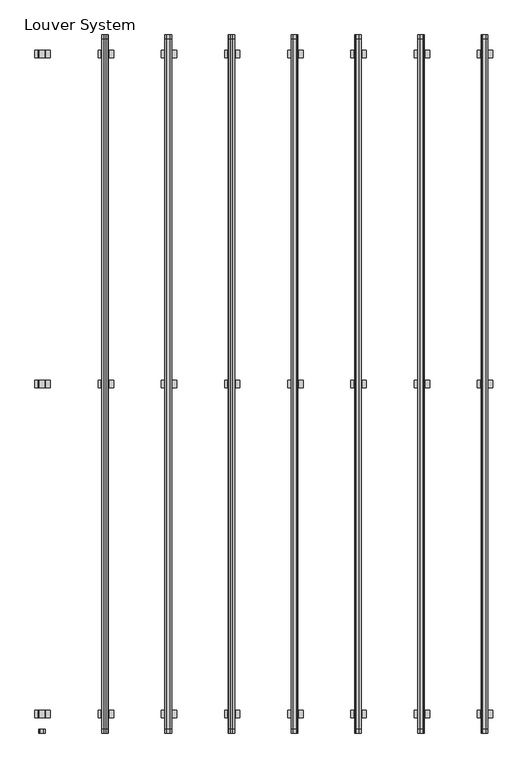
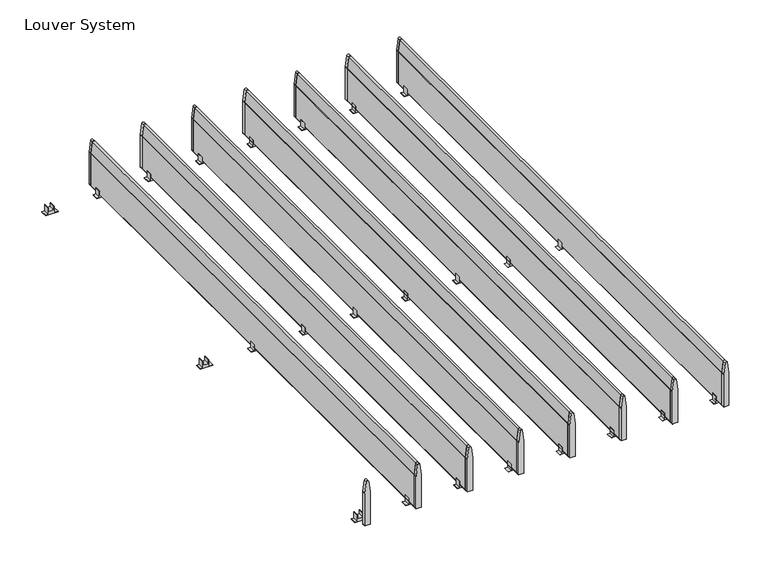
"""IFC4 building model written with IfcOpenShell, lengths in millimetres: geographic element geometry, Site_Danpal_AURA-Louvers : Louver System."""

from ifc_helpers import new_model, si_unit, point, frame, frame_2d, origin, place, context, project, spatial, polyline, circle_curve, trimmed, segment, composite_curve, outline, extrude, source, transform, mapped, element, save


def louver_system_e50a767e(model_context):
    return source(origin(), model_context, "Body", "SweptSolid", [
        extrude(outline(polyline([(70.2801886, 1496.0651013), (70.2801886, 1478.3440408), (67.6474895, 1478.3440408), (67.6474895, 1560.0224076), (70.1690862, 1560.0224076), (70.1690862, 1534.3177853), (74.0275948, 1534.3177853), (113.6946905, 1534.3177853), (114.4461851, 1532.5237184), (87.857937, 1532.5237184), (87.857937, 1497.4762816), (113.8713724, 1497.4762816), (112.7974197, 1496.0651013), (70.2801886, 1496.0651013)])), frame((0.0, -1045.0, 0.0), z_axis=(0.0, 1.0, 0.0), x_axis=(0.0, 0.0, 1.0)), (0.0, 0.0, 1.0), 40.0),
        extrude(outline(polyline([(70.2801886, 1496.0651013), (70.2801886, 1478.3440408), (67.6474895, 1478.3440408), (67.6474895, 1560.0224076), (70.1690862, 1560.0224076), (70.1690862, 1534.3177853), (74.0275948, 1534.3177853), (113.6946905, 1534.3177853), (114.4461851, 1532.5237184), (87.857937, 1532.5237184), (87.857937, 1497.4762816), (113.8713724, 1497.4762816), (112.7974197, 1496.0651013), (70.2801886, 1496.0651013)])), frame((0.0, 705.0, 0.0), z_axis=(0.0, 1.0, 0.0), x_axis=(0.0, 0.0, 1.0)), (0.0, 0.0, 1.0), 40.0),
        extrude(outline(polyline([(70.2801886, 1496.0651013), (70.2801886, 1478.3440408), (67.6474895, 1478.3440408), (67.6474895, 1560.0224076), (70.1690862, 1560.0224076), (70.1690862, 1534.3177853), (74.0275948, 1534.3177853), (113.6946905, 1534.3177853), (114.4461851, 1532.5237184), (87.857937, 1532.5237184), (87.857937, 1497.4762816), (113.8713724, 1497.4762816), (112.7974197, 1496.0651013), (70.2801886, 1496.0651013)])), frame((0.0, 2455.0, 0.0), z_axis=(0.0, 1.0, 0.0), x_axis=(0.0, 0.0, 1.0)), (0.0, 0.0, 1.0), 40.0),
        extrude(outline(composite_curve([segment(trimmed(circle_curve(frame_2d((309.4816555, 1499.9)), 32.6237184), [point((309.4816555, 1532.5237184))], [point((313.7306269, 1532.2458381))], False, "CARTESIAN"), True, "CONTINUOUS"), segment(polyline([(313.7306269, 1532.2458381), (387.4745822, 1522.5587816)]), True, "CONTINUOUS"), segment(trimmed(circle_curve(frame_2d((386.4816555, 1515.0)), 7.6237184), [point((387.4745822, 1522.5587816))], [point((387.4745822, 1507.4412184))], False, "CARTESIAN"), True, "CONTINUOUS"), segment(polyline([(387.4745822, 1507.4412184), (313.7306269, 1497.7541619)]), True, "CONTINUOUS"), segment(trimmed(circle_curve(frame_2d((309.4816555, 1530.1)), 32.6237184), [point((313.7306269, 1497.7541619))], [point((309.4816555, 1497.4762816))], False, "CARTESIAN"), True, "CONTINUOUS"), segment(polyline([(309.4816555, 1497.4762816), (90.2816555, 1497.4762816)]), True, "CONTINUOUS"), segment(trimmed(circle_curve(frame_2d((90.2816555, 1499.9)), 2.4237184), [point((90.2816555, 1497.4762816))], [point((87.857937, 1499.9))], False, "CARTESIAN"), True, "CONTINUOUS"), segment(polyline([(87.857937, 1499.9), (87.857937, 1530.1)]), True, "CONTINUOUS"), segment(trimmed(circle_curve(frame_2d((90.2816555, 1530.1)), 2.4237184), [point((87.857937, 1530.1))], [point((90.2816555, 1532.5237184))], False, "CARTESIAN"), True, "CONTINUOUS"), segment(polyline([(90.2816555, 1532.5237184), (309.4816555, 1532.5237184)]), True, "CONTINUOUS")], self_intersect=False)), frame((0.0, -1125.0, 0.0), z_axis=(0.0, 1.0, 0.0), x_axis=(0.0, 0.0, 1.0)), (0.0, 0.0, 1.0), 20.0718852),
        extrude(outline(composite_curve([segment(trimmed(circle_curve(frame_2d((309.4816555, 1499.9)), 32.6237184), [point((309.4816555, 1532.5237184))], [point((313.7306269, 1532.2458381))], False, "CARTESIAN"), True, "CONTINUOUS"), segment(polyline([(313.7306269, 1532.2458381), (387.4745822, 1522.5587816)]), True, "CONTINUOUS"), segment(trimmed(circle_curve(frame_2d((386.4816555, 1515.0)), 7.6237184), [point((387.4745822, 1522.5587816))], [point((387.4745822, 1507.4412184))], False, "CARTESIAN"), True, "CONTINUOUS"), segment(polyline([(387.4745822, 1507.4412184), (313.7306269, 1497.7541619)]), True, "CONTINUOUS"), segment(trimmed(circle_curve(frame_2d((309.4816555, 1530.1)), 32.6237184), [point((313.7306269, 1497.7541619))], [point((309.4816555, 1497.4762816))], False, "CARTESIAN"), True, "CONTINUOUS"), segment(polyline([(309.4816555, 1497.4762816), (90.2816555, 1497.4762816)]), True, "CONTINUOUS"), segment(trimmed(circle_curve(frame_2d((90.2816555, 1499.9)), 2.4237184), [point((90.2816555, 1497.4762816))], [point((87.857937, 1499.9))], False, "CARTESIAN"), True, "CONTINUOUS"), segment(polyline([(87.857937, 1499.9), (87.857937, 1530.1)]), True, "CONTINUOUS"), segment(trimmed(circle_curve(frame_2d((90.2816555, 1530.1)), 2.4237184), [point((87.857937, 1530.1))], [point((90.2816555, 1532.5237184))], False, "CARTESIAN"), True, "CONTINUOUS"), segment(polyline([(90.2816555, 1532.5237184), (309.4816555, 1532.5237184)]), True, "CONTINUOUS")], self_intersect=False)), frame((0.0, 2555.0, 0.0), z_axis=(0.0, 1.0, 0.0), x_axis=(0.0, 0.0, 1.0)), (0.0, 0.0, 1.0), 20.0),
        extrude(outline(composite_curve([segment(trimmed(circle_curve(frame_2d((309.4816555, 1499.9)), 32.6237184), [point((309.4816555, 1532.5237184))], [point((313.7306269, 1532.2458381))], False, "CARTESIAN"), True, "CONTINUOUS"), segment(polyline([(313.7306269, 1532.2458381), (387.4745822, 1522.5587816)]), True, "CONTINUOUS"), segment(trimmed(circle_curve(frame_2d((386.4816555, 1515.0)), 7.6237184), [point((387.4745822, 1522.5587816))], [point((387.4745822, 1507.4412184))], False, "CARTESIAN"), True, "CONTINUOUS"), segment(polyline([(387.4745822, 1507.4412184), (313.7306269, 1497.7541619)]), True, "CONTINUOUS"), segment(trimmed(circle_curve(frame_2d((309.4816555, 1530.1)), 32.6237184), [point((313.7306269, 1497.7541619))], [point((309.4816555, 1497.4762816))], False, "CARTESIAN"), True, "CONTINUOUS"), segment(polyline([(309.4816555, 1497.4762816), (90.2816555, 1497.4762816)]), True, "CONTINUOUS"), segment(trimmed(circle_curve(frame_2d((90.2816555, 1499.9)), 2.4237184), [point((90.2816555, 1497.4762816))], [point((87.857937, 1499.9))], False, "CARTESIAN"), True, "CONTINUOUS"), segment(polyline([(87.857937, 1499.9), (87.857937, 1530.1)]), True, "CONTINUOUS"), segment(trimmed(circle_curve(frame_2d((90.2816555, 1530.1)), 2.4237184), [point((87.857937, 1530.1))], [point((90.2816555, 1532.5237184))], False, "CARTESIAN"), True, "CONTINUOUS"), segment(polyline([(90.2816555, 1532.5237184), (309.4816555, 1532.5237184)]), True, "CONTINUOUS")], self_intersect=False)), frame((0.0, -1104.9281148, 0.0), z_axis=(0.0, 1.0, 0.0), x_axis=(0.0, 0.0, 1.0)), (0.0, 0.0, 1.0), 3659.9281148),
        extrude(outline(polyline([(70.2801886, 1161.0651013), (70.2801886, 1143.3440408), (67.6474895, 1143.3440408), (67.6474895, 1225.0224076), (70.1690862, 1225.0224076), (70.1690862, 1199.3177853), (74.0275948, 1199.3177853), (113.6946905, 1199.3177853), (114.4461851, 1197.5237184), (87.857937, 1197.5237184), (87.857937, 1162.4762816), (113.8713724, 1162.4762816), (112.7974197, 1161.0651013), (70.2801886, 1161.0651013)])), frame((0.0, -1045.0, 0.0), z_axis=(0.0, 1.0, 0.0), x_axis=(0.0, 0.0, 1.0)), (0.0, 0.0, 1.0), 40.0),
        extrude(outline(polyline([(70.2801886, 1161.0651013), (70.2801886, 1143.3440408), (67.6474895, 1143.3440408), (67.6474895, 1225.0224076), (70.1690862, 1225.0224076), (70.1690862, 1199.3177853), (74.0275948, 1199.3177853), (113.6946905, 1199.3177853), (114.4461851, 1197.5237184), (87.857937, 1197.5237184), (87.857937, 1162.4762816), (113.8713724, 1162.4762816), (112.7974197, 1161.0651013), (70.2801886, 1161.0651013)])), frame((0.0, 705.0, 0.0), z_axis=(0.0, 1.0, 0.0), x_axis=(0.0, 0.0, 1.0)), (0.0, 0.0, 1.0), 40.0),
        extrude(outline(polyline([(70.2801886, 1161.0651013), (70.2801886, 1143.3440408), (67.6474895, 1143.3440408), (67.6474895, 1225.0224076), (70.1690862, 1225.0224076), (70.1690862, 1199.3177853), (74.0275948, 1199.3177853), (113.6946905, 1199.3177853), (114.4461851, 1197.5237184), (87.857937, 1197.5237184), (87.857937, 1162.4762816), (113.8713724, 1162.4762816), (112.7974197, 1161.0651013), (70.2801886, 1161.0651013)])), frame((0.0, 2455.0, 0.0), z_axis=(0.0, 1.0, 0.0), x_axis=(0.0, 0.0, 1.0)), (0.0, 0.0, 1.0), 40.0),
        extrude(outline(composite_curve([segment(trimmed(circle_curve(frame_2d((309.4816555, 1164.9)), 32.6237184), [point((309.4816555, 1197.5237184))], [point((313.7306269, 1197.2458381))], False, "CARTESIAN"), True, "CONTINUOUS"), segment(polyline([(313.7306269, 1197.2458381), (387.4745822, 1187.5587816)]), True, "CONTINUOUS"), segment(trimmed(circle_curve(frame_2d((386.4816555, 1180.0)), 7.6237184), [point((387.4745822, 1187.5587816))], [point((387.4745822, 1172.4412184))], False, "CARTESIAN"), True, "CONTINUOUS"), segment(polyline([(387.4745822, 1172.4412184), (313.7306269, 1162.7541619)]), True, "CONTINUOUS"), segment(trimmed(circle_curve(frame_2d((309.4816555, 1195.1)), 32.6237184), [point((313.7306269, 1162.7541619))], [point((309.4816555, 1162.4762816))], False, "CARTESIAN"), True, "CONTINUOUS"), segment(polyline([(309.4816555, 1162.4762816), (90.2816555, 1162.4762816)]), True, "CONTINUOUS"), segment(trimmed(circle_curve(frame_2d((90.2816555, 1164.9)), 2.4237184), [point((90.2816555, 1162.4762816))], [point((87.857937, 1164.9))], False, "CARTESIAN"), True, "CONTINUOUS"), segment(polyline([(87.857937, 1164.9), (87.857937, 1195.1)]), True, "CONTINUOUS"), segment(trimmed(circle_curve(frame_2d((90.2816555, 1195.1)), 2.4237184), [point((87.857937, 1195.1))], [point((90.2816555, 1197.5237184))], False, "CARTESIAN"), True, "CONTINUOUS"), segment(polyline([(90.2816555, 1197.5237184), (309.4816555, 1197.5237184)]), True, "CONTINUOUS")], self_intersect=False)), frame((0.0, -1125.0, 0.0), z_axis=(0.0, 1.0, 0.0), x_axis=(0.0, 0.0, 1.0)), (0.0, 0.0, 1.0), 20.0718852),
        extrude(outline(composite_curve([segment(trimmed(circle_curve(frame_2d((309.4816555, 1164.9)), 32.6237184), [point((309.4816555, 1197.5237184))], [point((313.7306269, 1197.2458381))], False, "CARTESIAN"), True, "CONTINUOUS"), segment(polyline([(313.7306269, 1197.2458381), (387.4745822, 1187.5587816)]), True, "CONTINUOUS"), segment(trimmed(circle_curve(frame_2d((386.4816555, 1180.0)), 7.6237184), [point((387.4745822, 1187.5587816))], [point((387.4745822, 1172.4412184))], False, "CARTESIAN"), True, "CONTINUOUS"), segment(polyline([(387.4745822, 1172.4412184), (313.7306269, 1162.7541619)]), True, "CONTINUOUS"), segment(trimmed(circle_curve(frame_2d((309.4816555, 1195.1)), 32.6237184), [point((313.7306269, 1162.7541619))], [point((309.4816555, 1162.4762816))], False, "CARTESIAN"), True, "CONTINUOUS"), segment(polyline([(309.4816555, 1162.4762816), (90.2816555, 1162.4762816)]), True, "CONTINUOUS"), segment(trimmed(circle_curve(frame_2d((90.2816555, 1164.9)), 2.4237184), [point((90.2816555, 1162.4762816))], [point((87.857937, 1164.9))], False, "CARTESIAN"), True, "CONTINUOUS"), segment(polyline([(87.857937, 1164.9), (87.857937, 1195.1)]), True, "CONTINUOUS"), segment(trimmed(circle_curve(frame_2d((90.2816555, 1195.1)), 2.4237184), [point((87.857937, 1195.1))], [point((90.2816555, 1197.5237184))], False, "CARTESIAN"), True, "CONTINUOUS"), segment(polyline([(90.2816555, 1197.5237184), (309.4816555, 1197.5237184)]), True, "CONTINUOUS")], self_intersect=False)), frame((0.0, 2555.0, 0.0), z_axis=(0.0, 1.0, 0.0), x_axis=(0.0, 0.0, 1.0)), (0.0, 0.0, 1.0), 20.0),
        extrude(outline(composite_curve([segment(trimmed(circle_curve(frame_2d((309.4816555, 1164.9)), 32.6237184), [point((309.4816555, 1197.5237184))], [point((313.7306269, 1197.2458381))], False, "CARTESIAN"), True, "CONTINUOUS"), segment(polyline([(313.7306269, 1197.2458381), (387.4745822, 1187.5587816)]), True, "CONTINUOUS"), segment(trimmed(circle_curve(frame_2d((386.4816555, 1180.0)), 7.6237184), [point((387.4745822, 1187.5587816))], [point((387.4745822, 1172.4412184))], False, "CARTESIAN"), True, "CONTINUOUS"), segment(polyline([(387.4745822, 1172.4412184), (313.7306269, 1162.7541619)]), True, "CONTINUOUS"), segment(trimmed(circle_curve(frame_2d((309.4816555, 1195.1)), 32.6237184), [point((313.7306269, 1162.7541619))], [point((309.4816555, 1162.4762816))], False, "CARTESIAN"), True, "CONTINUOUS"), segment(polyline([(309.4816555, 1162.4762816), (90.2816555, 1162.4762816)]), True, "CONTINUOUS"), segment(trimmed(circle_curve(frame_2d((90.2816555, 1164.9)), 2.4237184), [point((90.2816555, 1162.4762816))], [point((87.857937, 1164.9))], False, "CARTESIAN"), True, "CONTINUOUS"), segment(polyline([(87.857937, 1164.9), (87.857937, 1195.1)]), True, "CONTINUOUS"), segment(trimmed(circle_curve(frame_2d((90.2816555, 1195.1)), 2.4237184), [point((87.857937, 1195.1))], [point((90.2816555, 1197.5237184))], False, "CARTESIAN"), True, "CONTINUOUS"), segment(polyline([(90.2816555, 1197.5237184), (309.4816555, 1197.5237184)]), True, "CONTINUOUS")], self_intersect=False)), frame((0.0, -1104.9281148, 0.0), z_axis=(0.0, 1.0, 0.0), x_axis=(0.0, 0.0, 1.0)), (0.0, 0.0, 1.0), 3659.9281148),
        extrude(outline(polyline([(70.2801886, 826.0651013), (70.2801886, 808.3440408), (67.6474895, 808.3440408), (67.6474895, 890.0224076), (70.1690862, 890.0224076), (70.1690862, 864.3177853), (74.0275948, 864.3177853), (113.6946905, 864.3177853), (114.4461851, 862.5237184), (87.857937, 862.5237184), (87.857937, 827.4762816), (113.8713724, 827.4762816), (112.7974197, 826.0651013), (70.2801886, 826.0651013)])), frame((0.0, -1045.0, 0.0), z_axis=(0.0, 1.0, 0.0), x_axis=(0.0, 0.0, 1.0)), (0.0, 0.0, 1.0), 40.0),
        extrude(outline(polyline([(70.2801886, 826.0651013), (70.2801886, 808.3440408), (67.6474895, 808.3440408), (67.6474895, 890.0224076), (70.1690862, 890.0224076), (70.1690862, 864.3177853), (74.0275948, 864.3177853), (113.6946905, 864.3177853), (114.4461851, 862.5237184), (87.857937, 862.5237184), (87.857937, 827.4762816), (113.8713724, 827.4762816), (112.7974197, 826.0651013), (70.2801886, 826.0651013)])), frame((0.0, 705.0, 0.0), z_axis=(0.0, 1.0, 0.0), x_axis=(0.0, 0.0, 1.0)), (0.0, 0.0, 1.0), 40.0),
        extrude(outline(polyline([(70.2801886, 826.0651013), (70.2801886, 808.3440408), (67.6474895, 808.3440408), (67.6474895, 890.0224076), (70.1690862, 890.0224076), (70.1690862, 864.3177853), (74.0275948, 864.3177853), (113.6946905, 864.3177853), (114.4461851, 862.5237184), (87.857937, 862.5237184), (87.857937, 827.4762816), (113.8713724, 827.4762816), (112.7974197, 826.0651013), (70.2801886, 826.0651013)])), frame((0.0, 2455.0, 0.0), z_axis=(0.0, 1.0, 0.0), x_axis=(0.0, 0.0, 1.0)), (0.0, 0.0, 1.0), 40.0),
        extrude(outline(composite_curve([segment(trimmed(circle_curve(frame_2d((309.4816555, 829.9)), 32.6237184), [point((309.4816555, 862.5237184))], [point((313.7306269, 862.2458381))], False, "CARTESIAN"), True, "CONTINUOUS"), segment(polyline([(313.7306269, 862.2458381), (387.4745822, 852.5587816)]), True, "CONTINUOUS"), segment(trimmed(circle_curve(frame_2d((386.4816555, 845.0)), 7.6237184), [point((387.4745822, 852.5587816))], [point((387.4745822, 837.4412184))], False, "CARTESIAN"), True, "CONTINUOUS"), segment(polyline([(387.4745822, 837.4412184), (313.7306269, 827.7541619)]), True, "CONTINUOUS"), segment(trimmed(circle_curve(frame_2d((309.4816555, 860.1)), 32.6237184), [point((313.7306269, 827.7541619))], [point((309.4816555, 827.4762816))], False, "CARTESIAN"), True, "CONTINUOUS"), segment(polyline([(309.4816555, 827.4762816), (90.2816555, 827.4762816)]), True, "CONTINUOUS"), segment(trimmed(circle_curve(frame_2d((90.2816555, 829.9)), 2.4237184), [point((90.2816555, 827.4762816))], [point((87.857937, 829.9))], False, "CARTESIAN"), True, "CONTINUOUS"), segment(polyline([(87.857937, 829.9), (87.857937, 860.1)]), True, "CONTINUOUS"), segment(trimmed(circle_curve(frame_2d((90.2816555, 860.1)), 2.4237184), [point((87.857937, 860.1))], [point((90.2816555, 862.5237184))], False, "CARTESIAN"), True, "CONTINUOUS"), segment(polyline([(90.2816555, 862.5237184), (309.4816555, 862.5237184)]), True, "CONTINUOUS")], self_intersect=False)), frame((0.0, -1125.0, 0.0), z_axis=(0.0, 1.0, 0.0), x_axis=(0.0, 0.0, 1.0)), (0.0, 0.0, 1.0), 20.0718852),
        extrude(outline(composite_curve([segment(trimmed(circle_curve(frame_2d((309.4816555, 829.9)), 32.6237184), [point((309.4816555, 862.5237184))], [point((313.7306269, 862.2458381))], False, "CARTESIAN"), True, "CONTINUOUS"), segment(polyline([(313.7306269, 862.2458381), (387.4745822, 852.5587816)]), True, "CONTINUOUS"), segment(trimmed(circle_curve(frame_2d((386.4816555, 845.0)), 7.6237184), [point((387.4745822, 852.5587816))], [point((387.4745822, 837.4412184))], False, "CARTESIAN"), True, "CONTINUOUS"), segment(polyline([(387.4745822, 837.4412184), (313.7306269, 827.7541619)]), True, "CONTINUOUS"), segment(trimmed(circle_curve(frame_2d((309.4816555, 860.1)), 32.6237184), [point((313.7306269, 827.7541619))], [point((309.4816555, 827.4762816))], False, "CARTESIAN"), True, "CONTINUOUS"), segment(polyline([(309.4816555, 827.4762816), (90.2816555, 827.4762816)]), True, "CONTINUOUS"), segment(trimmed(circle_curve(frame_2d((90.2816555, 829.9)), 2.4237184), [point((90.2816555, 827.4762816))], [point((87.857937, 829.9))], False, "CARTESIAN"), True, "CONTINUOUS"), segment(polyline([(87.857937, 829.9), (87.857937, 860.1)]), True, "CONTINUOUS"), segment(trimmed(circle_curve(frame_2d((90.2816555, 860.1)), 2.4237184), [point((87.857937, 860.1))], [point((90.2816555, 862.5237184))], False, "CARTESIAN"), True, "CONTINUOUS"), segment(polyline([(90.2816555, 862.5237184), (309.4816555, 862.5237184)]), True, "CONTINUOUS")], self_intersect=False)), frame((0.0, 2555.0, 0.0), z_axis=(0.0, 1.0, 0.0), x_axis=(0.0, 0.0, 1.0)), (0.0, 0.0, 1.0), 20.0),
        extrude(outline(composite_curve([segment(trimmed(circle_curve(frame_2d((309.4816555, 829.9)), 32.6237184), [point((309.4816555, 862.5237184))], [point((313.7306269, 862.2458381))], False, "CARTESIAN"), True, "CONTINUOUS"), segment(polyline([(313.7306269, 862.2458381), (387.4745822, 852.5587816)]), True, "CONTINUOUS"), segment(trimmed(circle_curve(frame_2d((386.4816555, 845.0)), 7.6237184), [point((387.4745822, 852.5587816))], [point((387.4745822, 837.4412184))], False, "CARTESIAN"), True, "CONTINUOUS"), segment(polyline([(387.4745822, 837.4412184), (313.7306269, 827.7541619)]), True, "CONTINUOUS"), segment(trimmed(circle_curve(frame_2d((309.4816555, 860.1)), 32.6237184), [point((313.7306269, 827.7541619))], [point((309.4816555, 827.4762816))], False, "CARTESIAN"), True, "CONTINUOUS"), segment(polyline([(309.4816555, 827.4762816), (90.2816555, 827.4762816)]), True, "CONTINUOUS"), segment(trimmed(circle_curve(frame_2d((90.2816555, 829.9)), 2.4237184), [point((90.2816555, 827.4762816))], [point((87.857937, 829.9))], False, "CARTESIAN"), True, "CONTINUOUS"), segment(polyline([(87.857937, 829.9), (87.857937, 860.1)]), True, "CONTINUOUS"), segment(trimmed(circle_curve(frame_2d((90.2816555, 860.1)), 2.4237184), [point((87.857937, 860.1))], [point((90.2816555, 862.5237184))], False, "CARTESIAN"), True, "CONTINUOUS"), segment(polyline([(90.2816555, 862.5237184), (309.4816555, 862.5237184)]), True, "CONTINUOUS")], self_intersect=False)), frame((0.0, -1104.9281148, 0.0), z_axis=(0.0, 1.0, 0.0), x_axis=(0.0, 0.0, 1.0)), (0.0, 0.0, 1.0), 3659.9281148),
        extrude(outline(polyline([(70.2801886, 491.0651013), (70.2801886, 473.3440408), (67.6474895, 473.3440408), (67.6474895, 555.0224076), (70.1690862, 555.0224076), (70.1690862, 529.3177853), (74.0275948, 529.3177853), (113.6946905, 529.3177853), (114.4461851, 527.5237184), (87.857937, 527.5237184), (87.857937, 492.4762816), (113.8713724, 492.4762816), (112.7974197, 491.0651013), (70.2801886, 491.0651013)])), frame((0.0, -1045.0, 0.0), z_axis=(0.0, 1.0, 0.0), x_axis=(0.0, 0.0, 1.0)), (0.0, 0.0, 1.0), 40.0),
        extrude(outline(polyline([(70.2801886, 491.0651013), (70.2801886, 473.3440408), (67.6474895, 473.3440408), (67.6474895, 555.0224076), (70.1690862, 555.0224076), (70.1690862, 529.3177853), (74.0275948, 529.3177853), (113.6946905, 529.3177853), (114.4461851, 527.5237184), (87.857937, 527.5237184), (87.857937, 492.4762816), (113.8713724, 492.4762816), (112.7974197, 491.0651013), (70.2801886, 491.0651013)])), frame((0.0, 705.0, 0.0), z_axis=(0.0, 1.0, 0.0), x_axis=(0.0, 0.0, 1.0)), (0.0, 0.0, 1.0), 40.0),
        extrude(outline(polyline([(70.2801886, 491.0651013), (70.2801886, 473.3440408), (67.6474895, 473.3440408), (67.6474895, 555.0224076), (70.1690862, 555.0224076), (70.1690862, 529.3177853), (74.0275948, 529.3177853), (113.6946905, 529.3177853), (114.4461851, 527.5237184), (87.857937, 527.5237184), (87.857937, 492.4762816), (113.8713724, 492.4762816), (112.7974197, 491.0651013), (70.2801886, 491.0651013)])), frame((0.0, 2455.0, 0.0), z_axis=(0.0, 1.0, 0.0), x_axis=(0.0, 0.0, 1.0)), (0.0, 0.0, 1.0), 40.0),
        extrude(outline(composite_curve([segment(trimmed(circle_curve(frame_2d((309.4816555, 494.9)), 32.6237184), [point((309.4816555, 527.5237184))], [point((313.7306269, 527.2458381))], False, "CARTESIAN"), True, "CONTINUOUS"), segment(polyline([(313.7306269, 527.2458381), (387.4745822, 517.5587816)]), True, "CONTINUOUS"), segment(trimmed(circle_curve(frame_2d((386.4816555, 510.0)), 7.6237184), [point((387.4745822, 517.5587816))], [point((387.4745822, 502.4412184))], False, "CARTESIAN"), True, "CONTINUOUS"), segment(polyline([(387.4745822, 502.4412184), (313.7306269, 492.7541619)]), True, "CONTINUOUS"), segment(trimmed(circle_curve(frame_2d((309.4816555, 525.1)), 32.6237184), [point((313.7306269, 492.7541619))], [point((309.4816555, 492.4762816))], False, "CARTESIAN"), True, "CONTINUOUS"), segment(polyline([(309.4816555, 492.4762816), (90.2816555, 492.4762816)]), True, "CONTINUOUS"), segment(trimmed(circle_curve(frame_2d((90.2816555, 494.9)), 2.4237184), [point((90.2816555, 492.4762816))], [point((87.857937, 494.9))], False, "CARTESIAN"), True, "CONTINUOUS"), segment(polyline([(87.857937, 494.9), (87.857937, 525.1)]), True, "CONTINUOUS"), segment(trimmed(circle_curve(frame_2d((90.2816555, 525.1)), 2.4237184), [point((87.857937, 525.1))], [point((90.2816555, 527.5237184))], False, "CARTESIAN"), True, "CONTINUOUS"), segment(polyline([(90.2816555, 527.5237184), (309.4816555, 527.5237184)]), True, "CONTINUOUS")], self_intersect=False)), frame((0.0, -1125.0, 0.0), z_axis=(0.0, 1.0, 0.0), x_axis=(0.0, 0.0, 1.0)), (0.0, 0.0, 1.0), 20.0718852),
        extrude(outline(composite_curve([segment(trimmed(circle_curve(frame_2d((309.4816555, 494.9)), 32.6237184), [point((309.4816555, 527.5237184))], [point((313.7306269, 527.2458381))], False, "CARTESIAN"), True, "CONTINUOUS"), segment(polyline([(313.7306269, 527.2458381), (387.4745822, 517.5587816)]), True, "CONTINUOUS"), segment(trimmed(circle_curve(frame_2d((386.4816555, 510.0)), 7.6237184), [point((387.4745822, 517.5587816))], [point((387.4745822, 502.4412184))], False, "CARTESIAN"), True, "CONTINUOUS"), segment(polyline([(387.4745822, 502.4412184), (313.7306269, 492.7541619)]), True, "CONTINUOUS"), segment(trimmed(circle_curve(frame_2d((309.4816555, 525.1)), 32.6237184), [point((313.7306269, 492.7541619))], [point((309.4816555, 492.4762816))], False, "CARTESIAN"), True, "CONTINUOUS"), segment(polyline([(309.4816555, 492.4762816), (90.2816555, 492.4762816)]), True, "CONTINUOUS"), segment(trimmed(circle_curve(frame_2d((90.2816555, 494.9)), 2.4237184), [point((90.2816555, 492.4762816))], [point((87.857937, 494.9))], False, "CARTESIAN"), True, "CONTINUOUS"), segment(polyline([(87.857937, 494.9), (87.857937, 525.1)]), True, "CONTINUOUS"), segment(trimmed(circle_curve(frame_2d((90.2816555, 525.1)), 2.4237184), [point((87.857937, 525.1))], [point((90.2816555, 527.5237184))], False, "CARTESIAN"), True, "CONTINUOUS"), segment(polyline([(90.2816555, 527.5237184), (309.4816555, 527.5237184)]), True, "CONTINUOUS")], self_intersect=False)), frame((0.0, 2555.0, 0.0), z_axis=(0.0, 1.0, 0.0), x_axis=(0.0, 0.0, 1.0)), (0.0, 0.0, 1.0), 20.0),
        extrude(outline(composite_curve([segment(trimmed(circle_curve(frame_2d((309.4816555, 494.9)), 32.6237184), [point((309.4816555, 527.5237184))], [point((313.7306269, 527.2458381))], False, "CARTESIAN"), True, "CONTINUOUS"), segment(polyline([(313.7306269, 527.2458381), (387.4745822, 517.5587816)]), True, "CONTINUOUS"), segment(trimmed(circle_curve(frame_2d((386.4816555, 510.0)), 7.6237184), [point((387.4745822, 517.5587816))], [point((387.4745822, 502.4412184))], False, "CARTESIAN"), True, "CONTINUOUS"), segment(polyline([(387.4745822, 502.4412184), (313.7306269, 492.7541619)]), True, "CONTINUOUS"), segment(trimmed(circle_curve(frame_2d((309.4816555, 525.1)), 32.6237184), [point((313.7306269, 492.7541619))], [point((309.4816555, 492.4762816))], False, "CARTESIAN"), True, "CONTINUOUS"), segment(polyline([(309.4816555, 492.4762816), (90.2816555, 492.4762816)]), True, "CONTINUOUS"), segment(trimmed(circle_curve(frame_2d((90.2816555, 494.9)), 2.4237184), [point((90.2816555, 492.4762816))], [point((87.857937, 494.9))], False, "CARTESIAN"), True, "CONTINUOUS"), segment(polyline([(87.857937, 494.9), (87.857937, 525.1)]), True, "CONTINUOUS"), segment(trimmed(circle_curve(frame_2d((90.2816555, 525.1)), 2.4237184), [point((87.857937, 525.1))], [point((90.2816555, 527.5237184))], False, "CARTESIAN"), True, "CONTINUOUS"), segment(polyline([(90.2816555, 527.5237184), (309.4816555, 527.5237184)]), True, "CONTINUOUS")], self_intersect=False)), frame((0.0, -1104.9281148, 0.0), z_axis=(0.0, 1.0, 0.0), x_axis=(0.0, 0.0, 1.0)), (0.0, 0.0, 1.0), 3659.9281148),
        extrude(outline(polyline([(70.2801886, 156.0651013), (70.2801886, 138.3440408), (67.6474895, 138.3440408), (67.6474895, 220.0224076), (70.1690862, 220.0224076), (70.1690862, 194.3177853), (74.0275948, 194.3177853), (113.6946905, 194.3177853), (114.4461851, 192.5237184), (87.857937, 192.5237184), (87.857937, 157.4762816), (113.8713724, 157.4762816), (112.7974197, 156.0651013), (70.2801886, 156.0651013)])), frame((0.0, -1045.0, 0.0), z_axis=(0.0, 1.0, 0.0), x_axis=(0.0, 0.0, 1.0)), (0.0, 0.0, 1.0), 40.0),
        extrude(outline(polyline([(70.2801886, 156.0651013), (70.2801886, 138.3440408), (67.6474895, 138.3440408), (67.6474895, 220.0224076), (70.1690862, 220.0224076), (70.1690862, 194.3177853), (74.0275948, 194.3177853), (113.6946905, 194.3177853), (114.4461851, 192.5237184), (87.857937, 192.5237184), (87.857937, 157.4762816), (113.8713724, 157.4762816), (112.7974197, 156.0651013), (70.2801886, 156.0651013)])), frame((0.0, 705.0, 0.0), z_axis=(0.0, 1.0, 0.0), x_axis=(0.0, 0.0, 1.0)), (0.0, 0.0, 1.0), 40.0),
        extrude(outline(polyline([(70.2801886, 156.0651013), (70.2801886, 138.3440408), (67.6474895, 138.3440408), (67.6474895, 220.0224076), (70.1690862, 220.0224076), (70.1690862, 194.3177853), (74.0275948, 194.3177853), (113.6946905, 194.3177853), (114.4461851, 192.5237184), (87.857937, 192.5237184), (87.857937, 157.4762816), (113.8713724, 157.4762816), (112.7974197, 156.0651013), (70.2801886, 156.0651013)])), frame((0.0, 2455.0, 0.0), z_axis=(0.0, 1.0, 0.0), x_axis=(0.0, 0.0, 1.0)), (0.0, 0.0, 1.0), 40.0),
        extrude(outline(composite_curve([segment(trimmed(circle_curve(frame_2d((309.4816555, 159.9)), 32.6237184), [point((309.4816555, 192.5237184))], [point((313.7306269, 192.2458381))], False, "CARTESIAN"), True, "CONTINUOUS"), segment(polyline([(313.7306269, 192.2458381), (387.4745822, 182.5587816)]), True, "CONTINUOUS"), segment(trimmed(circle_curve(frame_2d((386.4816555, 175.0)), 7.6237184), [point((387.4745822, 182.5587816))], [point((387.4745822, 167.4412184))], False, "CARTESIAN"), True, "CONTINUOUS"), segment(polyline([(387.4745822, 167.4412184), (313.7306269, 157.7541619)]), True, "CONTINUOUS"), segment(trimmed(circle_curve(frame_2d((309.4816555, 190.1)), 32.6237184), [point((313.7306269, 157.7541619))], [point((309.4816555, 157.4762816))], False, "CARTESIAN"), True, "CONTINUOUS"), segment(polyline([(309.4816555, 157.4762816), (90.2816555, 157.4762816)]), True, "CONTINUOUS"), segment(trimmed(circle_curve(frame_2d((90.2816555, 159.9)), 2.4237184), [point((90.2816555, 157.4762816))], [point((87.857937, 159.9))], False, "CARTESIAN"), True, "CONTINUOUS"), segment(polyline([(87.857937, 159.9), (87.857937, 190.1)]), True, "CONTINUOUS"), segment(trimmed(circle_curve(frame_2d((90.2816555, 190.1)), 2.4237184), [point((87.857937, 190.1))], [point((90.2816555, 192.5237184))], False, "CARTESIAN"), True, "CONTINUOUS"), segment(polyline([(90.2816555, 192.5237184), (309.4816555, 192.5237184)]), True, "CONTINUOUS")], self_intersect=False)), frame((0.0, -1125.0, 0.0), z_axis=(0.0, 1.0, 0.0), x_axis=(0.0, 0.0, 1.0)), (0.0, 0.0, 1.0), 20.0718852),
        extrude(outline(composite_curve([segment(trimmed(circle_curve(frame_2d((309.4816555, 159.9)), 32.6237184), [point((309.4816555, 192.5237184))], [point((313.7306269, 192.2458381))], False, "CARTESIAN"), True, "CONTINUOUS"), segment(polyline([(313.7306269, 192.2458381), (387.4745822, 182.5587816)]), True, "CONTINUOUS"), segment(trimmed(circle_curve(frame_2d((386.4816555, 175.0)), 7.6237184), [point((387.4745822, 182.5587816))], [point((387.4745822, 167.4412184))], False, "CARTESIAN"), True, "CONTINUOUS"), segment(polyline([(387.4745822, 167.4412184), (313.7306269, 157.7541619)]), True, "CONTINUOUS"), segment(trimmed(circle_curve(frame_2d((309.4816555, 190.1)), 32.6237184), [point((313.7306269, 157.7541619))], [point((309.4816555, 157.4762816))], False, "CARTESIAN"), True, "CONTINUOUS"), segment(polyline([(309.4816555, 157.4762816), (90.2816555, 157.4762816)]), True, "CONTINUOUS"), segment(trimmed(circle_curve(frame_2d((90.2816555, 159.9)), 2.4237184), [point((90.2816555, 157.4762816))], [point((87.857937, 159.9))], False, "CARTESIAN"), True, "CONTINUOUS"), segment(polyline([(87.857937, 159.9), (87.857937, 190.1)]), True, "CONTINUOUS"), segment(trimmed(circle_curve(frame_2d((90.2816555, 190.1)), 2.4237184), [point((87.857937, 190.1))], [point((90.2816555, 192.5237184))], False, "CARTESIAN"), True, "CONTINUOUS"), segment(polyline([(90.2816555, 192.5237184), (309.4816555, 192.5237184)]), True, "CONTINUOUS")], self_intersect=False)), frame((0.0, 2555.0, 0.0), z_axis=(0.0, 1.0, 0.0), x_axis=(0.0, 0.0, 1.0)), (0.0, 0.0, 1.0), 20.0),
        extrude(outline(composite_curve([segment(trimmed(circle_curve(frame_2d((309.4816555, 159.9)), 32.6237184), [point((309.4816555, 192.5237184))], [point((313.7306269, 192.2458381))], False, "CARTESIAN"), True, "CONTINUOUS"), segment(polyline([(313.7306269, 192.2458381), (387.4745822, 182.5587816)]), True, "CONTINUOUS"), segment(trimmed(circle_curve(frame_2d((386.4816555, 175.0)), 7.6237184), [point((387.4745822, 182.5587816))], [point((387.4745822, 167.4412184))], False, "CARTESIAN"), True, "CONTINUOUS"), segment(polyline([(387.4745822, 167.4412184), (313.7306269, 157.7541619)]), True, "CONTINUOUS"), segment(trimmed(circle_curve(frame_2d((309.4816555, 190.1)), 32.6237184), [point((313.7306269, 157.7541619))], [point((309.4816555, 157.4762816))], False, "CARTESIAN"), True, "CONTINUOUS"), segment(polyline([(309.4816555, 157.4762816), (90.2816555, 157.4762816)]), True, "CONTINUOUS"), segment(trimmed(circle_curve(frame_2d((90.2816555, 159.9)), 2.4237184), [point((90.2816555, 157.4762816))], [point((87.857937, 159.9))], False, "CARTESIAN"), True, "CONTINUOUS"), segment(polyline([(87.857937, 159.9), (87.857937, 190.1)]), True, "CONTINUOUS"), segment(trimmed(circle_curve(frame_2d((90.2816555, 190.1)), 2.4237184), [point((87.857937, 190.1))], [point((90.2816555, 192.5237184))], False, "CARTESIAN"), True, "CONTINUOUS"), segment(polyline([(90.2816555, 192.5237184), (309.4816555, 192.5237184)]), True, "CONTINUOUS")], self_intersect=False)), frame((0.0, -1104.9281148, 0.0), z_axis=(0.0, 1.0, 0.0), x_axis=(0.0, 0.0, 1.0)), (0.0, 0.0, 1.0), 3659.9281148),
        extrude(outline(polyline([(70.2801886, -178.9348987), (70.2801886, -196.6559592), (67.6474895, -196.6559592), (67.6474895, -114.9775924), (70.1690862, -114.9775924), (70.1690862, -140.6822147), (74.0275948, -140.6822147), (113.6946905, -140.6822147), (114.4461851, -142.4762816), (87.857937, -142.4762816), (87.857937, -177.5237184), (113.8713724, -177.5237184), (112.7974197, -178.9348987), (70.2801886, -178.9348987)])), frame((0.0, -1045.0, 0.0), z_axis=(0.0, 1.0, 0.0), x_axis=(0.0, 0.0, 1.0)), (0.0, 0.0, 1.0), 40.0),
        extrude(outline(polyline([(70.2801886, -178.9348987), (70.2801886, -196.6559592), (67.6474895, -196.6559592), (67.6474895, -114.9775924), (70.1690862, -114.9775924), (70.1690862, -140.6822147), (74.0275948, -140.6822147), (113.6946905, -140.6822147), (114.4461851, -142.4762816), (87.857937, -142.4762816), (87.857937, -177.5237184), (113.8713724, -177.5237184), (112.7974197, -178.9348987), (70.2801886, -178.9348987)])), frame((0.0, 705.0, 0.0), z_axis=(0.0, 1.0, 0.0), x_axis=(0.0, 0.0, 1.0)), (0.0, 0.0, 1.0), 40.0),
        extrude(outline(polyline([(70.2801886, -178.9348987), (70.2801886, -196.6559592), (67.6474895, -196.6559592), (67.6474895, -114.9775924), (70.1690862, -114.9775924), (70.1690862, -140.6822147), (74.0275948, -140.6822147), (113.6946905, -140.6822147), (114.4461851, -142.4762816), (87.857937, -142.4762816), (87.857937, -177.5237184), (113.8713724, -177.5237184), (112.7974197, -178.9348987), (70.2801886, -178.9348987)])), frame((0.0, 2455.0, 0.0), z_axis=(0.0, 1.0, 0.0), x_axis=(0.0, 0.0, 1.0)), (0.0, 0.0, 1.0), 40.0),
        extrude(outline(composite_curve([segment(trimmed(circle_curve(frame_2d((309.4816555, -175.1)), 32.6237184), [point((309.4816555, -142.4762816))], [point((313.7306269, -142.7541619))], False, "CARTESIAN"), True, "CONTINUOUS"), segment(polyline([(313.7306269, -142.7541619), (387.4745822, -152.4412184)]), True, "CONTINUOUS"), segment(trimmed(circle_curve(frame_2d((386.4816555, -160.0)), 7.6237184), [point((387.4745822, -152.4412184))], [point((387.4745822, -167.5587816))], False, "CARTESIAN"), True, "CONTINUOUS"), segment(polyline([(387.4745822, -167.5587816), (313.7306269, -177.2458381)]), True, "CONTINUOUS"), segment(trimmed(circle_curve(frame_2d((309.4816555, -144.9)), 32.6237184), [point((313.7306269, -177.2458381))], [point((309.4816555, -177.5237184))], False, "CARTESIAN"), True, "CONTINUOUS"), segment(polyline([(309.4816555, -177.5237184), (90.2816555, -177.5237184)]), True, "CONTINUOUS"), segment(trimmed(circle_curve(frame_2d((90.2816555, -175.1)), 2.4237184), [point((90.2816555, -177.5237184))], [point((87.857937, -175.1))], False, "CARTESIAN"), True, "CONTINUOUS"), segment(polyline([(87.857937, -175.1), (87.857937, -144.9)]), True, "CONTINUOUS"), segment(trimmed(circle_curve(frame_2d((90.2816555, -144.9)), 2.4237184), [point((87.857937, -144.9))], [point((90.2816555, -142.4762816))], False, "CARTESIAN"), True, "CONTINUOUS"), segment(polyline([(90.2816555, -142.4762816), (309.4816555, -142.4762816)]), True, "CONTINUOUS")], self_intersect=False)), frame((0.0, -1125.0, 0.0), z_axis=(0.0, 1.0, 0.0), x_axis=(0.0, 0.0, 1.0)), (0.0, 0.0, 1.0), 20.0718852),
        extrude(outline(composite_curve([segment(trimmed(circle_curve(frame_2d((309.4816555, -175.1)), 32.6237184), [point((309.4816555, -142.4762816))], [point((313.7306269, -142.7541619))], False, "CARTESIAN"), True, "CONTINUOUS"), segment(polyline([(313.7306269, -142.7541619), (387.4745822, -152.4412184)]), True, "CONTINUOUS"), segment(trimmed(circle_curve(frame_2d((386.4816555, -160.0)), 7.6237184), [point((387.4745822, -152.4412184))], [point((387.4745822, -167.5587816))], False, "CARTESIAN"), True, "CONTINUOUS"), segment(polyline([(387.4745822, -167.5587816), (313.7306269, -177.2458381)]), True, "CONTINUOUS"), segment(trimmed(circle_curve(frame_2d((309.4816555, -144.9)), 32.6237184), [point((313.7306269, -177.2458381))], [point((309.4816555, -177.5237184))], False, "CARTESIAN"), True, "CONTINUOUS"), segment(polyline([(309.4816555, -177.5237184), (90.2816555, -177.5237184)]), True, "CONTINUOUS"), segment(trimmed(circle_curve(frame_2d((90.2816555, -175.1)), 2.4237184), [point((90.2816555, -177.5237184))], [point((87.857937, -175.1))], False, "CARTESIAN"), True, "CONTINUOUS"), segment(polyline([(87.857937, -175.1), (87.857937, -144.9)]), True, "CONTINUOUS"), segment(trimmed(circle_curve(frame_2d((90.2816555, -144.9)), 2.4237184), [point((87.857937, -144.9))], [point((90.2816555, -142.4762816))], False, "CARTESIAN"), True, "CONTINUOUS"), segment(polyline([(90.2816555, -142.4762816), (309.4816555, -142.4762816)]), True, "CONTINUOUS")], self_intersect=False)), frame((0.0, 2555.0, 0.0), z_axis=(0.0, 1.0, 0.0), x_axis=(0.0, 0.0, 1.0)), (0.0, 0.0, 1.0), 20.0),
        extrude(outline(composite_curve([segment(trimmed(circle_curve(frame_2d((309.4816555, -175.1)), 32.6237184), [point((309.4816555, -142.4762816))], [point((313.7306269, -142.7541619))], False, "CARTESIAN"), True, "CONTINUOUS"), segment(polyline([(313.7306269, -142.7541619), (387.4745822, -152.4412184)]), True, "CONTINUOUS"), segment(trimmed(circle_curve(frame_2d((386.4816555, -160.0)), 7.6237184), [point((387.4745822, -152.4412184))], [point((387.4745822, -167.5587816))], False, "CARTESIAN"), True, "CONTINUOUS"), segment(polyline([(387.4745822, -167.5587816), (313.7306269, -177.2458381)]), True, "CONTINUOUS"), segment(trimmed(circle_curve(frame_2d((309.4816555, -144.9)), 32.6237184), [point((313.7306269, -177.2458381))], [point((309.4816555, -177.5237184))], False, "CARTESIAN"), True, "CONTINUOUS"), segment(polyline([(309.4816555, -177.5237184), (90.2816555, -177.5237184)]), True, "CONTINUOUS"), segment(trimmed(circle_curve(frame_2d((90.2816555, -175.1)), 2.4237184), [point((90.2816555, -177.5237184))], [point((87.857937, -175.1))], False, "CARTESIAN"), True, "CONTINUOUS"), segment(polyline([(87.857937, -175.1), (87.857937, -144.9)]), True, "CONTINUOUS"), segment(trimmed(circle_curve(frame_2d((90.2816555, -144.9)), 2.4237184), [point((87.857937, -144.9))], [point((90.2816555, -142.4762816))], False, "CARTESIAN"), True, "CONTINUOUS"), segment(polyline([(90.2816555, -142.4762816), (309.4816555, -142.4762816)]), True, "CONTINUOUS")], self_intersect=False)), frame((0.0, -1104.9281148, 0.0), z_axis=(0.0, 1.0, 0.0), x_axis=(0.0, 0.0, 1.0)), (0.0, 0.0, 1.0), 3659.9281148),
        extrude(outline(polyline([(70.2801886, -513.9348987), (70.2801886, -531.6559592), (67.6474895, -531.6559592), (67.6474895, -449.9775924), (70.1690862, -449.9775924), (70.1690862, -475.6822147), (74.0275948, -475.6822147), (113.6946905, -475.6822147), (114.4461851, -477.4762816), (87.857937, -477.4762816), (87.857937, -512.5237184), (113.8713724, -512.5237184), (112.7974197, -513.9348987), (70.2801886, -513.9348987)])), frame((0.0, -1045.0, 0.0), z_axis=(0.0, 1.0, 0.0), x_axis=(0.0, 0.0, 1.0)), (0.0, 0.0, 1.0), 40.0),
        extrude(outline(polyline([(70.2801886, -513.9348987), (70.2801886, -531.6559592), (67.6474895, -531.6559592), (67.6474895, -449.9775924), (70.1690862, -449.9775924), (70.1690862, -475.6822147), (74.0275948, -475.6822147), (113.6946905, -475.6822147), (114.4461851, -477.4762816), (87.857937, -477.4762816), (87.857937, -512.5237184), (113.8713724, -512.5237184), (112.7974197, -513.9348987), (70.2801886, -513.9348987)])), frame((0.0, 705.0, 0.0), z_axis=(0.0, 1.0, 0.0), x_axis=(0.0, 0.0, 1.0)), (0.0, 0.0, 1.0), 40.0),
        extrude(outline(polyline([(70.2801886, -513.9348987), (70.2801886, -531.6559592), (67.6474895, -531.6559592), (67.6474895, -449.9775924), (70.1690862, -449.9775924), (70.1690862, -475.6822147), (74.0275948, -475.6822147), (113.6946905, -475.6822147), (114.4461851, -477.4762816), (87.857937, -477.4762816), (87.857937, -512.5237184), (113.8713724, -512.5237184), (112.7974197, -513.9348987), (70.2801886, -513.9348987)])), frame((0.0, 2455.0, 0.0), z_axis=(0.0, 1.0, 0.0), x_axis=(0.0, 0.0, 1.0)), (0.0, 0.0, 1.0), 40.0),
        extrude(outline(composite_curve([segment(trimmed(circle_curve(frame_2d((309.4816555, -510.1)), 32.6237184), [point((309.4816555, -477.4762816))], [point((313.7306269, -477.7541619))], False, "CARTESIAN"), True, "CONTINUOUS"), segment(polyline([(313.7306269, -477.7541619), (387.4745822, -487.4412184)]), True, "CONTINUOUS"), segment(trimmed(circle_curve(frame_2d((386.4816555, -495.0)), 7.6237184), [point((387.4745822, -487.4412184))], [point((387.4745822, -502.5587816))], False, "CARTESIAN"), True, "CONTINUOUS"), segment(polyline([(387.4745822, -502.5587816), (313.7306269, -512.2458381)]), True, "CONTINUOUS"), segment(trimmed(circle_curve(frame_2d((309.4816555, -479.9)), 32.6237184), [point((313.7306269, -512.2458381))], [point((309.4816555, -512.5237184))], False, "CARTESIAN"), True, "CONTINUOUS"), segment(polyline([(309.4816555, -512.5237184), (90.2816555, -512.5237184)]), True, "CONTINUOUS"), segment(trimmed(circle_curve(frame_2d((90.2816555, -510.1)), 2.4237184), [point((90.2816555, -512.5237184))], [point((87.857937, -510.1))], False, "CARTESIAN"), True, "CONTINUOUS"), segment(polyline([(87.857937, -510.1), (87.857937, -479.9)]), True, "CONTINUOUS"), segment(trimmed(circle_curve(frame_2d((90.2816555, -479.9)), 2.4237184), [point((87.857937, -479.9))], [point((90.2816555, -477.4762816))], False, "CARTESIAN"), True, "CONTINUOUS"), segment(polyline([(90.2816555, -477.4762816), (309.4816555, -477.4762816)]), True, "CONTINUOUS")], self_intersect=False)), frame((0.0, -1125.0, 0.0), z_axis=(0.0, 1.0, 0.0), x_axis=(0.0, 0.0, 1.0)), (0.0, 0.0, 1.0), 20.0718852),
        extrude(outline(composite_curve([segment(trimmed(circle_curve(frame_2d((309.4816555, -510.1)), 32.6237184), [point((309.4816555, -477.4762816))], [point((313.7306269, -477.7541619))], False, "CARTESIAN"), True, "CONTINUOUS"), segment(polyline([(313.7306269, -477.7541619), (387.4745822, -487.4412184)]), True, "CONTINUOUS"), segment(trimmed(circle_curve(frame_2d((386.4816555, -495.0)), 7.6237184), [point((387.4745822, -487.4412184))], [point((387.4745822, -502.5587816))], False, "CARTESIAN"), True, "CONTINUOUS"), segment(polyline([(387.4745822, -502.5587816), (313.7306269, -512.2458381)]), True, "CONTINUOUS"), segment(trimmed(circle_curve(frame_2d((309.4816555, -479.9)), 32.6237184), [point((313.7306269, -512.2458381))], [point((309.4816555, -512.5237184))], False, "CARTESIAN"), True, "CONTINUOUS"), segment(polyline([(309.4816555, -512.5237184), (90.2816555, -512.5237184)]), True, "CONTINUOUS"), segment(trimmed(circle_curve(frame_2d((90.2816555, -510.1)), 2.4237184), [point((90.2816555, -512.5237184))], [point((87.857937, -510.1))], False, "CARTESIAN"), True, "CONTINUOUS"), segment(polyline([(87.857937, -510.1), (87.857937, -479.9)]), True, "CONTINUOUS"), segment(trimmed(circle_curve(frame_2d((90.2816555, -479.9)), 2.4237184), [point((87.857937, -479.9))], [point((90.2816555, -477.4762816))], False, "CARTESIAN"), True, "CONTINUOUS"), segment(polyline([(90.2816555, -477.4762816), (309.4816555, -477.4762816)]), True, "CONTINUOUS")], self_intersect=False)), frame((0.0, 2555.0, 0.0), z_axis=(0.0, 1.0, 0.0), x_axis=(0.0, 0.0, 1.0)), (0.0, 0.0, 1.0), 20.0),
        extrude(outline(composite_curve([segment(trimmed(circle_curve(frame_2d((309.4816555, -510.1)), 32.6237184), [point((309.4816555, -477.4762816))], [point((313.7306269, -477.7541619))], False, "CARTESIAN"), True, "CONTINUOUS"), segment(polyline([(313.7306269, -477.7541619), (387.4745822, -487.4412184)]), True, "CONTINUOUS"), segment(trimmed(circle_curve(frame_2d((386.4816555, -495.0)), 7.6237184), [point((387.4745822, -487.4412184))], [point((387.4745822, -502.5587816))], False, "CARTESIAN"), True, "CONTINUOUS"), segment(polyline([(387.4745822, -502.5587816), (313.7306269, -512.2458381)]), True, "CONTINUOUS"), segment(trimmed(circle_curve(frame_2d((309.4816555, -479.9)), 32.6237184), [point((313.7306269, -512.2458381))], [point((309.4816555, -512.5237184))], False, "CARTESIAN"), True, "CONTINUOUS"), segment(polyline([(309.4816555, -512.5237184), (90.2816555, -512.5237184)]), True, "CONTINUOUS"), segment(trimmed(circle_curve(frame_2d((90.2816555, -510.1)), 2.4237184), [point((90.2816555, -512.5237184))], [point((87.857937, -510.1))], False, "CARTESIAN"), True, "CONTINUOUS"), segment(polyline([(87.857937, -510.1), (87.857937, -479.9)]), True, "CONTINUOUS"), segment(trimmed(circle_curve(frame_2d((90.2816555, -479.9)), 2.4237184), [point((87.857937, -479.9))], [point((90.2816555, -477.4762816))], False, "CARTESIAN"), True, "CONTINUOUS"), segment(polyline([(90.2816555, -477.4762816), (309.4816555, -477.4762816)]), True, "CONTINUOUS")], self_intersect=False)), frame((0.0, -1104.9281148, 0.0), z_axis=(0.0, 1.0, 0.0), x_axis=(0.0, 0.0, 1.0)), (0.0, 0.0, 1.0), 3659.9281148),
        extrude(outline(polyline([(70.2801886, -848.9348987), (70.2801886, -866.6559592), (67.6474895, -866.6559592), (67.6474895, -784.9775924), (70.1690862, -784.9775924), (70.1690862, -810.6822147), (74.0275948, -810.6822147), (113.6946905, -810.6822147), (114.4461851, -812.4762816), (87.857937, -812.4762816), (87.857937, -847.5237184), (113.8713724, -847.5237184), (112.7974197, -848.9348987), (70.2801886, -848.9348987)])), frame((0.0, -1045.0, 0.0), z_axis=(0.0, 1.0, 0.0), x_axis=(0.0, 0.0, 1.0)), (0.0, 0.0, 1.0), 40.0),
        extrude(outline(polyline([(70.2801886, -848.9348987), (70.2801886, -866.6559592), (67.6474895, -866.6559592), (67.6474895, -784.9775924), (70.1690862, -784.9775924), (70.1690862, -810.6822147), (74.0275948, -810.6822147), (113.6946905, -810.6822147), (114.4461851, -812.4762816), (87.857937, -812.4762816), (87.857937, -847.5237184), (113.8713724, -847.5237184), (112.7974197, -848.9348987), (70.2801886, -848.9348987)])), frame((0.0, 705.0, 0.0), z_axis=(0.0, 1.0, 0.0), x_axis=(0.0, 0.0, 1.0)), (0.0, 0.0, 1.0), 40.0),
        extrude(outline(polyline([(70.2801886, -848.9348987), (70.2801886, -866.6559592), (67.6474895, -866.6559592), (67.6474895, -784.9775924), (70.1690862, -784.9775924), (70.1690862, -810.6822147), (74.0275948, -810.6822147), (113.6946905, -810.6822147), (114.4461851, -812.4762816), (87.857937, -812.4762816), (87.857937, -847.5237184), (113.8713724, -847.5237184), (112.7974197, -848.9348987), (70.2801886, -848.9348987)])), frame((0.0, 2455.0, 0.0), z_axis=(0.0, 1.0, 0.0), x_axis=(0.0, 0.0, 1.0)), (0.0, 0.0, 1.0), 40.0),
        extrude(outline(composite_curve([segment(trimmed(circle_curve(frame_2d((309.4816555, -845.1)), 32.6237184), [point((309.4816555, -812.4762816))], [point((313.7306269, -812.7541619))], False, "CARTESIAN"), True, "CONTINUOUS"), segment(polyline([(313.7306269, -812.7541619), (387.4745822, -822.4412184)]), True, "CONTINUOUS"), segment(trimmed(circle_curve(frame_2d((386.4816555, -830.0)), 7.6237184), [point((387.4745822, -822.4412184))], [point((387.4745822, -837.5587816))], False, "CARTESIAN"), True, "CONTINUOUS"), segment(polyline([(387.4745822, -837.5587816), (313.7306269, -847.2458381)]), True, "CONTINUOUS"), segment(trimmed(circle_curve(frame_2d((309.4816555, -814.9)), 32.6237184), [point((313.7306269, -847.2458381))], [point((309.4816555, -847.5237184))], False, "CARTESIAN"), True, "CONTINUOUS"), segment(polyline([(309.4816555, -847.5237184), (90.2816555, -847.5237184)]), True, "CONTINUOUS"), segment(trimmed(circle_curve(frame_2d((90.2816555, -845.1)), 2.4237184), [point((90.2816555, -847.5237184))], [point((87.857937, -845.1))], False, "CARTESIAN"), True, "CONTINUOUS"), segment(polyline([(87.857937, -845.1), (87.857937, -814.9)]), True, "CONTINUOUS"), segment(trimmed(circle_curve(frame_2d((90.2816555, -814.9)), 2.4237184), [point((87.857937, -814.9))], [point((90.2816555, -812.4762816))], False, "CARTESIAN"), True, "CONTINUOUS"), segment(polyline([(90.2816555, -812.4762816), (309.4816555, -812.4762816)]), True, "CONTINUOUS")], self_intersect=False)), frame((0.0, -1125.0, 0.0), z_axis=(0.0, 1.0, 0.0), x_axis=(0.0, 0.0, 1.0)), (0.0, 0.0, 1.0), 20.0718852),
    ])


if __name__ == "__main__":
    model = new_model("IFC4")
    model_context = context("Model", 3, world=origin())
    ifc_project = project(units=[si_unit("LENGTHUNIT", "METRE", prefix="MILLI")], contexts=[model_context])
    site = spatial("IfcSite", under=ifc_project)
    building = spatial("IfcBuilding", under=site)
    placement = place(None, origin())
    louver_system_shape = louver_system_e50a767e(model_context)
    element("IfcGeographicElement", 1, ObjectType="Site_Danpal_AURA-Louvers : Louver System", at=placement, inside=building, context=model_context, shape_type="MappedRepresentation", body=[
        mapped(louver_system_shape, transform((0.0, 0.0, 0.0), x_axis=(1.0, 0.0, 0.0), y_axis=(0.0, 1.0, 0.0), z_axis=(0.0, 0.0, 1.0))),
    ])
    save(model, "model.ifc")
